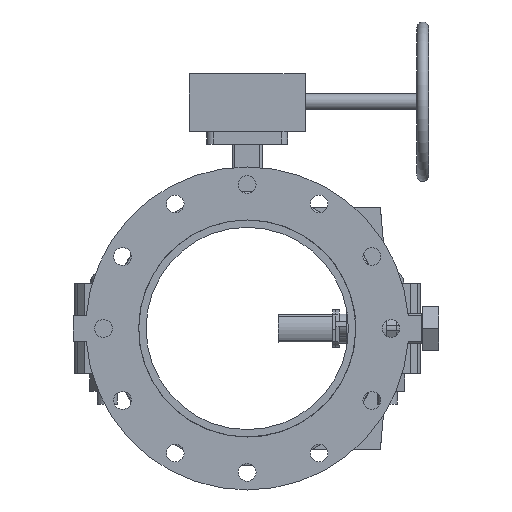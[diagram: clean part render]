
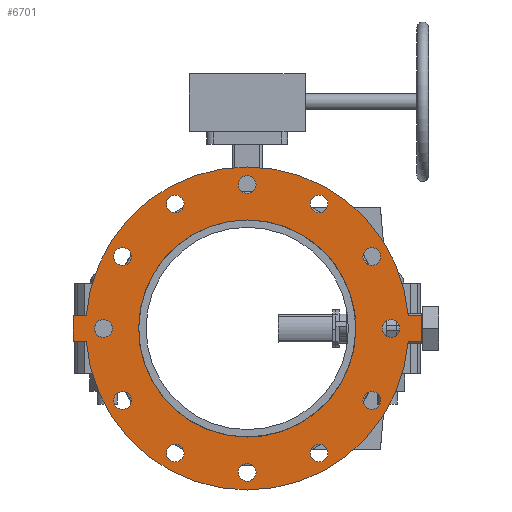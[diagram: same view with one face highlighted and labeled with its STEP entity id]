
A CAD part, front view. The second image highlights one B-rep face of the part: STEP entity #6701.
In plain terms, the highlighted planar face has unit normal (0, -1, 0) as drawn and (0, 0, -1) by its records, which use the part's own axes.
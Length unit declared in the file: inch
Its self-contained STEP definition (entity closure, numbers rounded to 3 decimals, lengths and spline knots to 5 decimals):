
#155=FACE_BOUND('',#867,.T.);
#156=FACE_BOUND('',#868,.T.);
#157=FACE_BOUND('',#869,.T.);
#158=FACE_BOUND('',#870,.T.);
#159=FACE_BOUND('',#871,.T.);
#160=FACE_BOUND('',#872,.T.);
#161=FACE_BOUND('',#873,.T.);
#162=FACE_BOUND('',#874,.T.);
#163=FACE_BOUND('',#875,.T.);
#164=FACE_BOUND('',#876,.T.);
#165=FACE_BOUND('',#877,.T.);
#166=FACE_BOUND('',#878,.T.);
#167=FACE_BOUND('',#879,.T.);
#252=PLANE('',#7281);
#494=FACE_OUTER_BOUND('',#866,.T.);
#866=EDGE_LOOP('',(#4345,#4346,#4347,#4348,#4349,#4350,#4351,#4352));
#867=EDGE_LOOP('',(#4353));
#868=EDGE_LOOP('',(#4354));
#869=EDGE_LOOP('',(#4355));
#870=EDGE_LOOP('',(#4356));
#871=EDGE_LOOP('',(#4357));
#872=EDGE_LOOP('',(#4358));
#873=EDGE_LOOP('',(#4359));
#874=EDGE_LOOP('',(#4360));
#875=EDGE_LOOP('',(#4361));
#876=EDGE_LOOP('',(#4362));
#877=EDGE_LOOP('',(#4363));
#878=EDGE_LOOP('',(#4364));
#879=EDGE_LOOP('',(#4365,#4366));
#1335=LINE('',#10143,#1840);
#1336=LINE('',#10145,#1841);
#1337=LINE('',#10147,#1842);
#1338=LINE('',#10151,#1843);
#1339=LINE('',#10153,#1844);
#1340=LINE('',#10154,#1845);
#1840=VECTOR('',#8107,0.3937);
#1841=VECTOR('',#8108,0.3937);
#1842=VECTOR('',#8109,0.3937);
#1843=VECTOR('',#8112,0.3937);
#1844=VECTOR('',#8113,0.3937);
#1845=VECTOR('',#8114,0.3937);
#2334=CIRCLE('',#7247,0.4375);
#2336=CIRCLE('',#7250,0.4375);
#2338=CIRCLE('',#7253,0.4375);
#2340=CIRCLE('',#7256,0.4375);
#2342=CIRCLE('',#7259,0.4375);
#2344=CIRCLE('',#7262,0.4375);
#2346=CIRCLE('',#7265,0.4375);
#2348=CIRCLE('',#7268,0.4375);
#2350=CIRCLE('',#7271,0.4375);
#2352=CIRCLE('',#7274,0.4375);
#2354=CIRCLE('',#7277,0.4375);
#2356=CIRCLE('',#7280,0.4375);
#2357=CIRCLE('',#7282,8.);
#2358=CIRCLE('',#7283,8.);
#2359=CIRCLE('',#7284,5.375);
#2360=CIRCLE('',#7285,5.375);
#2709=VERTEX_POINT('',#10069);
#2711=VERTEX_POINT('',#10075);
#2713=VERTEX_POINT('',#10081);
#2715=VERTEX_POINT('',#10087);
#2717=VERTEX_POINT('',#10093);
#2719=VERTEX_POINT('',#10099);
#2721=VERTEX_POINT('',#10105);
#2723=VERTEX_POINT('',#10111);
#2725=VERTEX_POINT('',#10117);
#2727=VERTEX_POINT('',#10123);
#2729=VERTEX_POINT('',#10129);
#2731=VERTEX_POINT('',#10135);
#2732=VERTEX_POINT('',#10139);
#2733=VERTEX_POINT('',#10140);
#2734=VERTEX_POINT('',#10142);
#2735=VERTEX_POINT('',#10144);
#2736=VERTEX_POINT('',#10146);
#2737=VERTEX_POINT('',#10148);
#2738=VERTEX_POINT('',#10150);
#2739=VERTEX_POINT('',#10152);
#2740=VERTEX_POINT('',#10155);
#2741=VERTEX_POINT('',#10156);
#3353=EDGE_CURVE('',#2709,#2709,#2334,.T.);
#3356=EDGE_CURVE('',#2711,#2711,#2336,.T.);
#3359=EDGE_CURVE('',#2713,#2713,#2338,.T.);
#3362=EDGE_CURVE('',#2715,#2715,#2340,.T.);
#3365=EDGE_CURVE('',#2717,#2717,#2342,.T.);
#3368=EDGE_CURVE('',#2719,#2719,#2344,.T.);
#3371=EDGE_CURVE('',#2721,#2721,#2346,.T.);
#3374=EDGE_CURVE('',#2723,#2723,#2348,.T.);
#3377=EDGE_CURVE('',#2725,#2725,#2350,.T.);
#3380=EDGE_CURVE('',#2727,#2727,#2352,.T.);
#3383=EDGE_CURVE('',#2729,#2729,#2354,.T.);
#3386=EDGE_CURVE('',#2731,#2731,#2356,.T.);
#3387=EDGE_CURVE('',#2732,#2733,#2357,.T.);
#3388=EDGE_CURVE('',#2733,#2734,#1335,.T.);
#3389=EDGE_CURVE('',#2734,#2735,#1336,.T.);
#3390=EDGE_CURVE('',#2735,#2736,#1337,.T.);
#3391=EDGE_CURVE('',#2736,#2737,#2358,.T.);
#3392=EDGE_CURVE('',#2737,#2738,#1338,.T.);
#3393=EDGE_CURVE('',#2738,#2739,#1339,.T.);
#3394=EDGE_CURVE('',#2739,#2732,#1340,.T.);
#3395=EDGE_CURVE('',#2740,#2741,#2359,.T.);
#3396=EDGE_CURVE('',#2741,#2740,#2360,.T.);
#4345=ORIENTED_EDGE('',*,*,#3387,.T.);
#4346=ORIENTED_EDGE('',*,*,#3388,.T.);
#4347=ORIENTED_EDGE('',*,*,#3389,.T.);
#4348=ORIENTED_EDGE('',*,*,#3390,.T.);
#4349=ORIENTED_EDGE('',*,*,#3391,.T.);
#4350=ORIENTED_EDGE('',*,*,#3392,.T.);
#4351=ORIENTED_EDGE('',*,*,#3393,.T.);
#4352=ORIENTED_EDGE('',*,*,#3394,.T.);
#4353=ORIENTED_EDGE('',*,*,#3353,.T.);
#4354=ORIENTED_EDGE('',*,*,#3356,.T.);
#4355=ORIENTED_EDGE('',*,*,#3359,.T.);
#4356=ORIENTED_EDGE('',*,*,#3362,.T.);
#4357=ORIENTED_EDGE('',*,*,#3365,.T.);
#4358=ORIENTED_EDGE('',*,*,#3368,.T.);
#4359=ORIENTED_EDGE('',*,*,#3371,.T.);
#4360=ORIENTED_EDGE('',*,*,#3374,.T.);
#4361=ORIENTED_EDGE('',*,*,#3377,.T.);
#4362=ORIENTED_EDGE('',*,*,#3380,.T.);
#4363=ORIENTED_EDGE('',*,*,#3383,.T.);
#4364=ORIENTED_EDGE('',*,*,#3386,.T.);
#4365=ORIENTED_EDGE('',*,*,#3395,.T.);
#4366=ORIENTED_EDGE('',*,*,#3396,.T.);
#6701=ADVANCED_FACE('',(#494,#155,#156,#157,#158,#159,#160,#161,#162,#163,
#164,#165,#166,#167),#252,.T.);
#7247=AXIS2_PLACEMENT_3D('',#10071,#8024,#8025);
#7250=AXIS2_PLACEMENT_3D('',#10077,#8031,#8032);
#7253=AXIS2_PLACEMENT_3D('',#10083,#8038,#8039);
#7256=AXIS2_PLACEMENT_3D('',#10089,#8045,#8046);
#7259=AXIS2_PLACEMENT_3D('',#10095,#8052,#8053);
#7262=AXIS2_PLACEMENT_3D('',#10101,#8059,#8060);
#7265=AXIS2_PLACEMENT_3D('',#10107,#8066,#8067);
#7268=AXIS2_PLACEMENT_3D('',#10113,#8073,#8074);
#7271=AXIS2_PLACEMENT_3D('',#10119,#8080,#8081);
#7274=AXIS2_PLACEMENT_3D('',#10125,#8087,#8088);
#7277=AXIS2_PLACEMENT_3D('',#10131,#8094,#8095);
#7280=AXIS2_PLACEMENT_3D('',#10137,#8101,#8102);
#7281=AXIS2_PLACEMENT_3D('',#10138,#8103,#8104);
#7282=AXIS2_PLACEMENT_3D('',#10141,#8105,#8106);
#7283=AXIS2_PLACEMENT_3D('',#10149,#8110,#8111);
#7284=AXIS2_PLACEMENT_3D('',#10157,#8115,#8116);
#7285=AXIS2_PLACEMENT_3D('',#10158,#8117,#8118);
#8024=DIRECTION('center_axis',(0.,0.,1.));
#8025=DIRECTION('ref_axis',(-0.866,0.5,0.));
#8031=DIRECTION('center_axis',(0.,0.,1.));
#8032=DIRECTION('ref_axis',(-0.5,0.866,0.));
#8038=DIRECTION('center_axis',(0.,0.,1.));
#8039=DIRECTION('ref_axis',(0.,1.,0.));
#8045=DIRECTION('center_axis',(0.,0.,1.));
#8046=DIRECTION('ref_axis',(0.5,0.866,0.));
#8052=DIRECTION('center_axis',(0.,0.,1.));
#8053=DIRECTION('ref_axis',(0.866,0.5,0.));
#8059=DIRECTION('center_axis',(0.,0.,1.));
#8060=DIRECTION('ref_axis',(1.,0.,0.));
#8066=DIRECTION('center_axis',(0.,0.,1.));
#8067=DIRECTION('ref_axis',(0.866,-0.5,0.));
#8073=DIRECTION('center_axis',(0.,0.,1.));
#8074=DIRECTION('ref_axis',(0.5,-0.866,0.));
#8080=DIRECTION('center_axis',(0.,0.,1.));
#8081=DIRECTION('ref_axis',(0.,-1.,0.));
#8087=DIRECTION('center_axis',(0.,0.,1.));
#8088=DIRECTION('ref_axis',(-0.5,-0.866,0.));
#8094=DIRECTION('center_axis',(0.,0.,1.));
#8095=DIRECTION('ref_axis',(-0.866,-0.5,0.));
#8101=DIRECTION('center_axis',(0.,0.,1.));
#8102=DIRECTION('ref_axis',(-1.,0.,0.));
#8103=DIRECTION('center_axis',(0.,0.,-1.));
#8104=DIRECTION('ref_axis',(-1.,0.,0.));
#8105=DIRECTION('center_axis',(0.,0.,-1.));
#8106=DIRECTION('ref_axis',(-1.,0.,0.));
#8107=DIRECTION('',(0.,1.,0.));
#8108=DIRECTION('',(1.,0.,0.));
#8109=DIRECTION('',(0.,-1.,0.));
#8110=DIRECTION('center_axis',(0.,0.,-1.));
#8111=DIRECTION('ref_axis',(-1.,0.,0.));
#8112=DIRECTION('',(0.,-1.,0.));
#8113=DIRECTION('',(-1.,0.,0.));
#8114=DIRECTION('',(0.,1.,0.));
#8115=DIRECTION('center_axis',(0.,0.,1.));
#8116=DIRECTION('ref_axis',(-1.,0.,0.));
#8117=DIRECTION('center_axis',(0.,0.,1.));
#8118=DIRECTION('ref_axis',(-1.,0.,0.));
#10069=CARTESIAN_POINT('',(-5.79154,3.34375,-0.625));
#10071=CARTESIAN_POINT('Origin',(-6.17043,3.5625,-0.625));
#10075=CARTESIAN_POINT('',(-3.34375,5.79154,-0.625));
#10077=CARTESIAN_POINT('Origin',(-3.5625,6.17043,-0.625));
#10081=CARTESIAN_POINT('',(0.,6.6875,-0.625));
#10083=CARTESIAN_POINT('Origin',(0.,7.125,-0.625));
#10087=CARTESIAN_POINT('',(3.34375,5.79154,-0.625));
#10089=CARTESIAN_POINT('Origin',(3.5625,6.17043,-0.625));
#10093=CARTESIAN_POINT('',(5.79154,3.34375,-0.625));
#10095=CARTESIAN_POINT('Origin',(6.17043,3.5625,-0.625));
#10099=CARTESIAN_POINT('',(6.6875,0.,-0.625));
#10101=CARTESIAN_POINT('Origin',(7.125,0.,-0.625));
#10105=CARTESIAN_POINT('',(5.79154,-3.34375,-0.625));
#10107=CARTESIAN_POINT('Origin',(6.17043,-3.5625,-0.625));
#10111=CARTESIAN_POINT('',(3.34375,-5.79154,-0.625));
#10113=CARTESIAN_POINT('Origin',(3.5625,-6.17043,-0.625));
#10117=CARTESIAN_POINT('',(0.,-6.6875,-0.625));
#10119=CARTESIAN_POINT('Origin',(0.,-7.125,-0.625));
#10123=CARTESIAN_POINT('',(-3.34375,-5.79154,-0.625));
#10125=CARTESIAN_POINT('Origin',(-3.5625,-6.17043,-0.625));
#10129=CARTESIAN_POINT('',(-5.79154,-3.34375,-0.625));
#10131=CARTESIAN_POINT('Origin',(-6.17043,-3.5625,-0.625));
#10135=CARTESIAN_POINT('',(-6.6875,0.,-0.625));
#10137=CARTESIAN_POINT('Origin',(-7.125,0.,-0.625));
#10138=CARTESIAN_POINT('Origin',(0.,0.,-0.625));
#10139=CARTESIAN_POINT('',(-0.625,-7.97555,-0.625));
#10140=CARTESIAN_POINT('',(-0.625,7.97555,-0.625));
#10141=CARTESIAN_POINT('Origin',(0.,0.,-0.625));
#10142=CARTESIAN_POINT('',(-0.625,8.625,-0.625));
#10143=CARTESIAN_POINT('',(-0.625,-8.625,-0.625));
#10144=CARTESIAN_POINT('',(0.625,8.625,-0.625));
#10145=CARTESIAN_POINT('',(-0.625,8.625,-0.625));
#10146=CARTESIAN_POINT('',(0.625,7.97555,-0.625));
#10147=CARTESIAN_POINT('',(0.625,8.625,-0.625));
#10148=CARTESIAN_POINT('',(0.625,-7.97555,-0.625));
#10149=CARTESIAN_POINT('Origin',(0.,0.,-0.625));
#10150=CARTESIAN_POINT('',(0.625,-8.625,-0.625));
#10151=CARTESIAN_POINT('',(0.625,8.625,-0.625));
#10152=CARTESIAN_POINT('',(-0.625,-8.625,-0.625));
#10153=CARTESIAN_POINT('',(0.625,-8.625,-0.625));
#10154=CARTESIAN_POINT('',(-0.625,-8.625,-0.625));
#10155=CARTESIAN_POINT('',(0.625,5.33854,-0.625));
#10156=CARTESIAN_POINT('',(5.375,0.,-0.625));
#10157=CARTESIAN_POINT('Origin',(0.,0.,-0.625));
#10158=CARTESIAN_POINT('Origin',(0.,0.,-0.625));
